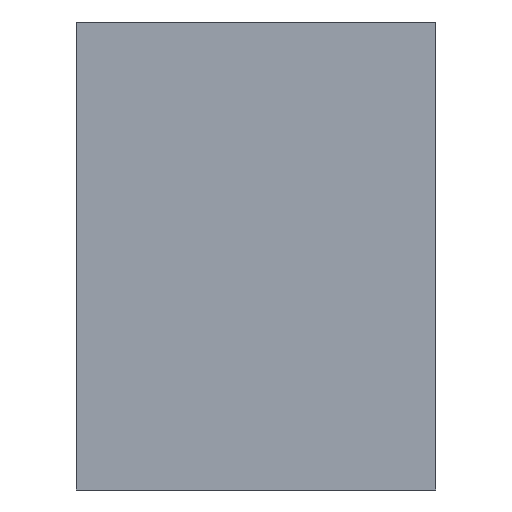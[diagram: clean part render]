
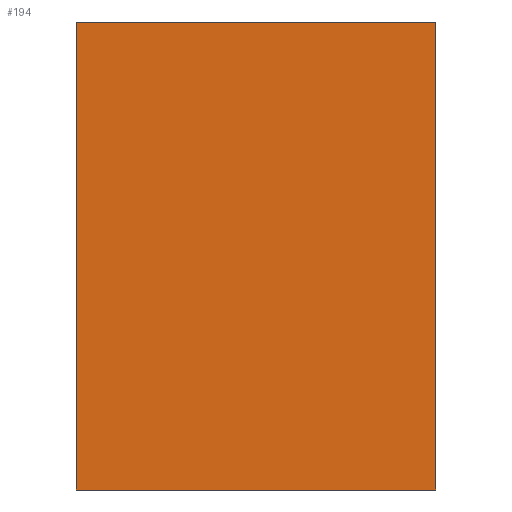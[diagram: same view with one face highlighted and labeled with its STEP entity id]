
A CAD part, left-side view. The second image highlights one B-rep face of the part: STEP entity #194.
In plain terms, the highlighted planar face has unit normal (-1, 0, 0).
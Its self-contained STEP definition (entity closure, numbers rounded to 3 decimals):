
#32=CARTESIAN_POINT('',(13.127,328.389,60.622));
#33=VERTEX_POINT('',#32);
#34=CARTESIAN_POINT('',(13.127,322.511,60.622));
#35=VERTEX_POINT('',#34);
#36=CARTESIAN_POINT('',(13.127,328.389,60.622));
#37=DIRECTION('',(0.,-1.,0.));
#38=VECTOR('',#37,5.878);
#39=LINE('',#36,#38);
#40=EDGE_CURVE('',#33,#35,#39,.T.);
#72=CARTESIAN_POINT('',(13.127,322.511,68.271));
#73=VERTEX_POINT('',#72);
#74=CARTESIAN_POINT('',(13.127,322.511,60.622));
#75=DIRECTION('',(0.,-0.,1.));
#76=VECTOR('',#75,7.649);
#77=LINE('',#74,#76);
#78=EDGE_CURVE('',#35,#73,#77,.T.);
#103=CARTESIAN_POINT('',(13.127,328.389,68.271));
#104=VERTEX_POINT('',#103);
#105=CARTESIAN_POINT('',(13.127,322.511,68.271));
#106=DIRECTION('',(0.,1.,-0.));
#107=VECTOR('',#106,5.878);
#108=LINE('',#105,#107);
#109=EDGE_CURVE('',#73,#104,#108,.T.);
#134=CARTESIAN_POINT('',(13.127,328.389,68.271));
#135=DIRECTION('',(0.,0.,-1.));
#136=VECTOR('',#135,7.649);
#137=LINE('',#134,#136);
#138=EDGE_CURVE('',#104,#33,#137,.T.);
#183=CARTESIAN_POINT('',(13.131,0.,0.));
#184=DIRECTION('',(-1.,0.,0.));
#185=DIRECTION('',(0.,-1.,0.));
#186=AXIS2_PLACEMENT_3D('',#183,#184,#185);
#187=PLANE('',#186);
#188=ORIENTED_EDGE('',*,*,#40,.T.);
#189=ORIENTED_EDGE('',*,*,#78,.T.);
#190=ORIENTED_EDGE('',*,*,#109,.T.);
#191=ORIENTED_EDGE('',*,*,#138,.T.);
#192=EDGE_LOOP('',(#188,#189,#190,#191));
#193=FACE_BOUND('',#192,.T.);
#194=ADVANCED_FACE('',(#193),#187,.T.);
